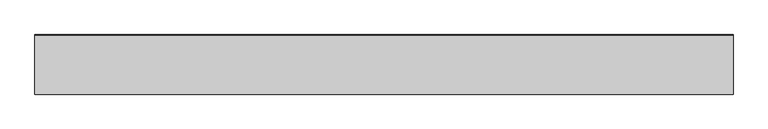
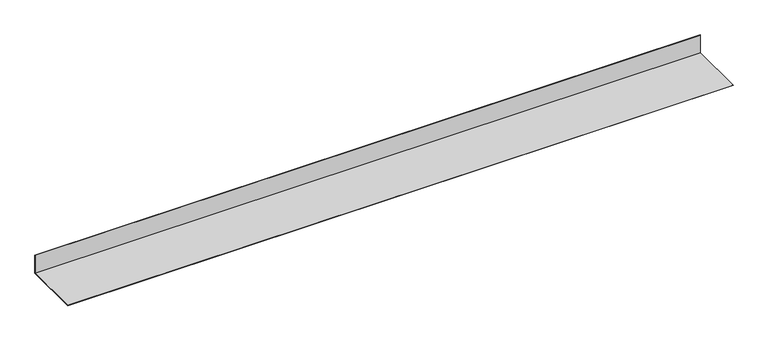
"""IFC4 building model written with IfcOpenShell, lengths in millimetres: proxy geometry, Оцинкованный уголок : 150х50х0.8."""

from ifc_helpers import new_model, si_unit, frame, origin, place, context, project, spatial, polyline, outline, extrude, source, transform, mapped, element, save


def generic_models_6a7d74ae(model_context):
    return source(origin(), model_context, "Body", "SweptSolid", [
        extrude(outline(polyline([(0.0, 50.0), (0.0, 0.0), (-150.0, 0.0), (-150.0, 0.8), (-0.8, 0.8), (-0.8, 50.0), (0.0, 50.0)])), frame((0.0, 0.0, 0.0), z_axis=(1.0, 0.0, 0.0), x_axis=(0.0, 1.0, 0.0)), (0.0, 0.0, 1.0), 1756.0),
    ])


if __name__ == "__main__":
    model = new_model("IFC4")
    model_context = context("Model", 3, world=origin())
    ifc_project = project(units=[si_unit("LENGTHUNIT", "METRE", prefix="MILLI")], contexts=[model_context])
    site = spatial("IfcSite", under=ifc_project)
    building = spatial("IfcBuilding", under=site)
    placement = place(None, origin())
    generic_models_shape = generic_models_6a7d74ae(model_context)
    element("IfcBuildingElementProxy", 1, Name="Оцинкованный уголок : 150х50х0.8", ObjectType="Оцинкованный уголок : 150х50х0.8", at=placement, inside=building, context=model_context, shape_type="MappedRepresentation", body=[
        mapped(generic_models_shape, transform((0.0, 0.0, 0.0), x_axis=(1.0, 0.0, 0.0), y_axis=(0.0, 1.0, 0.0), z_axis=(0.0, 0.0, 1.0))),
    ])
    save(model, "model.ifc")
